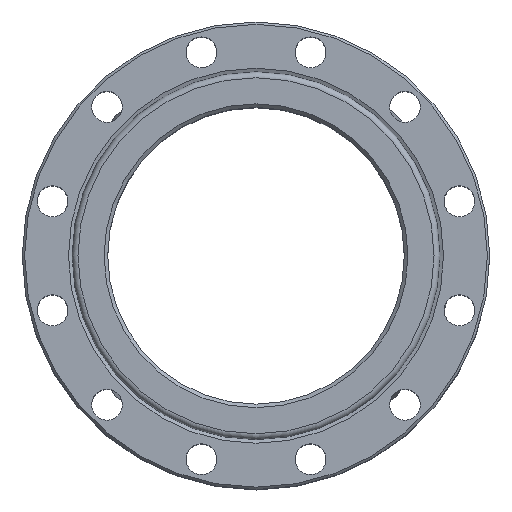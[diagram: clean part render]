
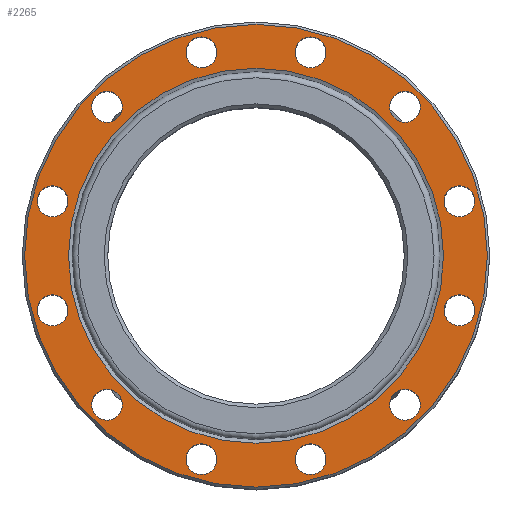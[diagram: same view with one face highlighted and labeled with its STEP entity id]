
A CAD part, top view. The second image highlights one B-rep face of the part: STEP entity #2265.
In plain terms, the highlighted planar face has unit normal (0, 0, 1).
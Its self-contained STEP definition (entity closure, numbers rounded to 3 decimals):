
#180=FACE_BOUND('',#436,.T.);
#181=FACE_BOUND('',#437,.T.);
#182=FACE_BOUND('',#438,.T.);
#183=FACE_BOUND('',#439,.T.);
#184=FACE_BOUND('',#440,.T.);
#185=FACE_BOUND('',#441,.T.);
#186=FACE_BOUND('',#442,.T.);
#187=FACE_BOUND('',#443,.T.);
#188=FACE_BOUND('',#444,.T.);
#189=FACE_BOUND('',#445,.T.);
#190=FACE_BOUND('',#446,.T.);
#191=FACE_BOUND('',#447,.T.);
#192=FACE_BOUND('',#448,.T.);
#201=PLANE('',#2462);
#281=FACE_OUTER_BOUND('',#435,.T.);
#435=EDGE_LOOP('',(#1594));
#436=EDGE_LOOP('',(#1595));
#437=EDGE_LOOP('',(#1596));
#438=EDGE_LOOP('',(#1597));
#439=EDGE_LOOP('',(#1598));
#440=EDGE_LOOP('',(#1599));
#441=EDGE_LOOP('',(#1600));
#442=EDGE_LOOP('',(#1601));
#443=EDGE_LOOP('',(#1602));
#444=EDGE_LOOP('',(#1603));
#445=EDGE_LOOP('',(#1604));
#446=EDGE_LOOP('',(#1605));
#447=EDGE_LOOP('',(#1606));
#448=EDGE_LOOP('',(#1607));
#751=CIRCLE('',#2407,13.);
#753=CIRCLE('',#2410,13.);
#755=CIRCLE('',#2413,13.);
#757=CIRCLE('',#2416,13.);
#759=CIRCLE('',#2419,13.);
#761=CIRCLE('',#2422,13.);
#763=CIRCLE('',#2425,13.);
#765=CIRCLE('',#2428,13.);
#767=CIRCLE('',#2431,13.);
#769=CIRCLE('',#2434,13.);
#771=CIRCLE('',#2437,13.);
#773=CIRCLE('',#2440,13.);
#785=CIRCLE('',#2461,195.);
#786=CIRCLE('',#2463,158.);
#938=VERTEX_POINT('',#3385);
#940=VERTEX_POINT('',#3391);
#942=VERTEX_POINT('',#3397);
#944=VERTEX_POINT('',#3403);
#946=VERTEX_POINT('',#3409);
#948=VERTEX_POINT('',#3415);
#950=VERTEX_POINT('',#3421);
#952=VERTEX_POINT('',#3427);
#954=VERTEX_POINT('',#3433);
#956=VERTEX_POINT('',#3439);
#958=VERTEX_POINT('',#3445);
#960=VERTEX_POINT('',#3451);
#972=VERTEX_POINT('',#3490);
#973=VERTEX_POINT('',#3494);
#1156=EDGE_CURVE('',#938,#938,#751,.T.);
#1159=EDGE_CURVE('',#940,#940,#753,.T.);
#1162=EDGE_CURVE('',#942,#942,#755,.T.);
#1165=EDGE_CURVE('',#944,#944,#757,.T.);
#1168=EDGE_CURVE('',#946,#946,#759,.T.);
#1171=EDGE_CURVE('',#948,#948,#761,.T.);
#1174=EDGE_CURVE('',#950,#950,#763,.T.);
#1177=EDGE_CURVE('',#952,#952,#765,.T.);
#1180=EDGE_CURVE('',#954,#954,#767,.T.);
#1183=EDGE_CURVE('',#956,#956,#769,.T.);
#1186=EDGE_CURVE('',#958,#958,#771,.T.);
#1189=EDGE_CURVE('',#960,#960,#773,.T.);
#1208=EDGE_CURVE('',#972,#972,#785,.T.);
#1209=EDGE_CURVE('',#973,#973,#786,.T.);
#1594=ORIENTED_EDGE('',*,*,#1208,.F.);
#1595=ORIENTED_EDGE('',*,*,#1156,.T.);
#1596=ORIENTED_EDGE('',*,*,#1159,.T.);
#1597=ORIENTED_EDGE('',*,*,#1162,.T.);
#1598=ORIENTED_EDGE('',*,*,#1165,.T.);
#1599=ORIENTED_EDGE('',*,*,#1168,.T.);
#1600=ORIENTED_EDGE('',*,*,#1171,.T.);
#1601=ORIENTED_EDGE('',*,*,#1174,.T.);
#1602=ORIENTED_EDGE('',*,*,#1177,.T.);
#1603=ORIENTED_EDGE('',*,*,#1180,.T.);
#1604=ORIENTED_EDGE('',*,*,#1183,.T.);
#1605=ORIENTED_EDGE('',*,*,#1186,.T.);
#1606=ORIENTED_EDGE('',*,*,#1189,.T.);
#1607=ORIENTED_EDGE('',*,*,#1209,.T.);
#2265=ADVANCED_FACE('',(#281,#180,#181,#182,#183,#184,#185,#186,#187,#188,
#189,#190,#191,#192),#201,.F.);
#2407=AXIS2_PLACEMENT_3D('',#3386,#2739,#2740);
#2410=AXIS2_PLACEMENT_3D('',#3392,#2746,#2747);
#2413=AXIS2_PLACEMENT_3D('',#3398,#2753,#2754);
#2416=AXIS2_PLACEMENT_3D('',#3404,#2760,#2761);
#2419=AXIS2_PLACEMENT_3D('',#3410,#2767,#2768);
#2422=AXIS2_PLACEMENT_3D('',#3416,#2774,#2775);
#2425=AXIS2_PLACEMENT_3D('',#3422,#2781,#2782);
#2428=AXIS2_PLACEMENT_3D('',#3428,#2788,#2789);
#2431=AXIS2_PLACEMENT_3D('',#3434,#2795,#2796);
#2434=AXIS2_PLACEMENT_3D('',#3440,#2802,#2803);
#2437=AXIS2_PLACEMENT_3D('',#3446,#2809,#2810);
#2440=AXIS2_PLACEMENT_3D('',#3452,#2816,#2817);
#2461=AXIS2_PLACEMENT_3D('',#3492,#2865,#2866);
#2462=AXIS2_PLACEMENT_3D('',#3493,#2867,#2868);
#2463=AXIS2_PLACEMENT_3D('',#3495,#2869,#2870);
#2739=DIRECTION('center_axis',(0.,0.,-1.));
#2740=DIRECTION('ref_axis',(1.,0.,0.));
#2746=DIRECTION('center_axis',(0.,0.,-1.));
#2747=DIRECTION('ref_axis',(1.,0.,0.));
#2753=DIRECTION('center_axis',(0.,0.,-1.));
#2754=DIRECTION('ref_axis',(1.,0.,0.));
#2760=DIRECTION('center_axis',(0.,0.,-1.));
#2761=DIRECTION('ref_axis',(1.,0.,0.));
#2767=DIRECTION('center_axis',(0.,0.,-1.));
#2768=DIRECTION('ref_axis',(1.,0.,0.));
#2774=DIRECTION('center_axis',(0.,0.,-1.));
#2775=DIRECTION('ref_axis',(1.,0.,0.));
#2781=DIRECTION('center_axis',(0.,0.,-1.));
#2782=DIRECTION('ref_axis',(1.,0.,0.));
#2788=DIRECTION('center_axis',(0.,0.,-1.));
#2789=DIRECTION('ref_axis',(1.,0.,0.));
#2795=DIRECTION('center_axis',(0.,0.,-1.));
#2796=DIRECTION('ref_axis',(1.,0.,0.));
#2802=DIRECTION('center_axis',(0.,0.,-1.));
#2803=DIRECTION('ref_axis',(1.,0.,0.));
#2809=DIRECTION('center_axis',(0.,0.,-1.));
#2810=DIRECTION('ref_axis',(1.,0.,0.));
#2816=DIRECTION('center_axis',(0.,0.,-1.));
#2817=DIRECTION('ref_axis',(1.,0.,0.));
#2865=DIRECTION('center_axis',(0.,0.,-1.));
#2866=DIRECTION('ref_axis',(-1.,0.,0.));
#2867=DIRECTION('center_axis',(0.,0.,-1.));
#2868=DIRECTION('ref_axis',(-1.,0.,0.));
#2869=DIRECTION('center_axis',(0.,0.,-1.));
#2870=DIRECTION('ref_axis',(0.,1.,0.));
#3385=CARTESIAN_POINT('',(-184.452,-45.94,111.));
#3386=CARTESIAN_POINT('Origin',(-171.452,-45.94,111.));
#3391=CARTESIAN_POINT('',(-58.94,-171.452,111.));
#3392=CARTESIAN_POINT('Origin',(-45.94,-171.452,111.));
#3397=CARTESIAN_POINT('',(112.511,-125.511,111.));
#3398=CARTESIAN_POINT('Origin',(125.511,-125.511,111.));
#3403=CARTESIAN_POINT('',(112.511,125.511,111.));
#3404=CARTESIAN_POINT('Origin',(125.511,125.511,111.));
#3409=CARTESIAN_POINT('',(-58.94,171.452,111.));
#3410=CARTESIAN_POINT('Origin',(-45.94,171.452,111.));
#3415=CARTESIAN_POINT('',(-184.452,45.94,111.));
#3416=CARTESIAN_POINT('Origin',(-171.452,45.94,111.));
#3421=CARTESIAN_POINT('',(-138.511,125.511,111.));
#3422=CARTESIAN_POINT('Origin',(-125.511,125.511,111.));
#3427=CARTESIAN_POINT('',(32.94,171.452,111.));
#3428=CARTESIAN_POINT('Origin',(45.94,171.452,111.));
#3433=CARTESIAN_POINT('',(158.452,45.94,111.));
#3434=CARTESIAN_POINT('Origin',(171.452,45.94,111.));
#3439=CARTESIAN_POINT('',(32.94,-171.452,111.));
#3440=CARTESIAN_POINT('Origin',(45.94,-171.452,111.));
#3445=CARTESIAN_POINT('',(-138.511,-125.511,111.));
#3446=CARTESIAN_POINT('Origin',(-125.511,-125.511,111.));
#3451=CARTESIAN_POINT('',(158.452,-45.94,111.));
#3452=CARTESIAN_POINT('Origin',(171.452,-45.94,111.));
#3490=CARTESIAN_POINT('',(195.,0.,111.));
#3492=CARTESIAN_POINT('Origin',(0.,0.,111.));
#3493=CARTESIAN_POINT('Origin',(0.,0.,111.));
#3494=CARTESIAN_POINT('',(0.,-158.,111.));
#3495=CARTESIAN_POINT('Origin',(0.,0.,111.));
